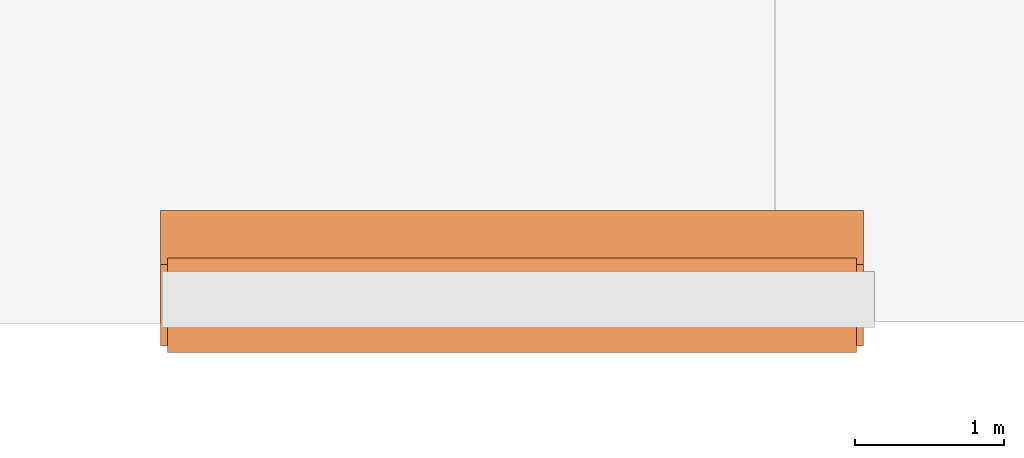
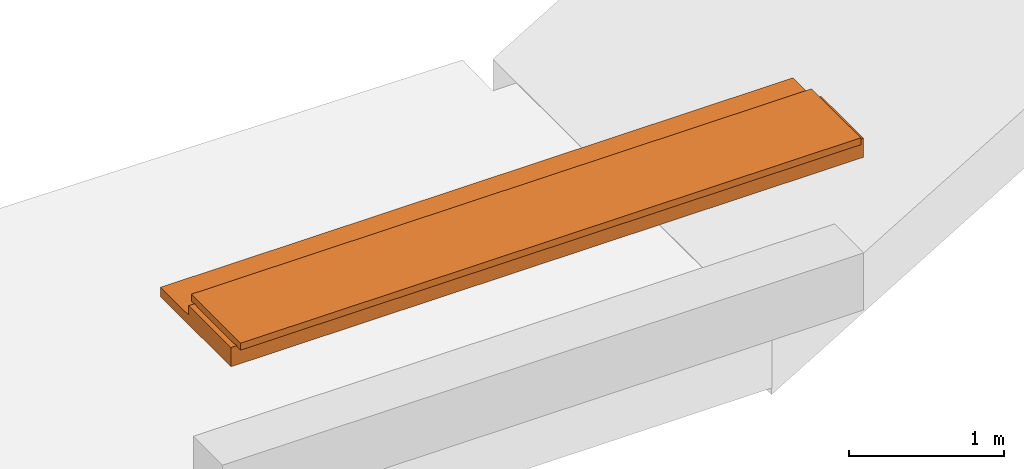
# One storey, part 3 of 4: 1 proxy.
"""IFC2X3 building model written with IfcOpenShell, lengths in metres."""

from ifc_helpers import new_model, entity, si_unit, converted_unit, derived_unit, direction, frame, origin, place, context, subcontext, project, spatial, faceted_brep, source, transform, mapped, material, type_object, type_shapes, element, save


model = new_model("IFC2X3")

# Units and contexts
model_context = context("Model", 3, precision=1e-05, world=origin(), true_north=direction((6.12303176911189e-17, 1.0)))
body_context = subcontext(model_context, "Body", "Model", "MODEL_VIEW")
ifc_project = project(units=[si_unit("LENGTHUNIT", "METRE"), si_unit("AREAUNIT", "SQUARE_METRE"), si_unit("VOLUMEUNIT", "CUBIC_METRE"), converted_unit("PLANEANGLEUNIT", "DEGREE", entity("IfcRatioMeasure", 0.0174532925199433), si_unit("PLANEANGLEUNIT", "RADIAN"), dimensions=[0, 0, 0, 0, 0, 0, 0]), si_unit("MASSUNIT", "GRAM", prefix="KILO"), derived_unit("MASSDENSITYUNIT", [(si_unit("MASSUNIT", "GRAM", prefix="KILO"), 1), (si_unit("LENGTHUNIT", "METRE"), -3)]), si_unit("TIMEUNIT", "SECOND"), si_unit("FREQUENCYUNIT", "HERTZ"), si_unit("THERMODYNAMICTEMPERATUREUNIT", "DEGREE_CELSIUS"), derived_unit("THERMALTRANSMITTANCEUNIT", [(si_unit("MASSUNIT", "GRAM", prefix="KILO"), 1), (si_unit("THERMODYNAMICTEMPERATUREUNIT", "KELVIN"), -1), (si_unit("TIMEUNIT", "SECOND"), -3)]), derived_unit("VOLUMETRICFLOWRATEUNIT", [(si_unit("LENGTHUNIT", "METRE"), 3), (si_unit("TIMEUNIT", "SECOND"), -1)]), si_unit("ELECTRICCURRENTUNIT", "AMPERE"), si_unit("ELECTRICVOLTAGEUNIT", "VOLT"), si_unit("POWERUNIT", "WATT"), si_unit("FORCEUNIT", "NEWTON", prefix="KILO"), si_unit("ILLUMINANCEUNIT", "LUX"), si_unit("LUMINOUSFLUXUNIT", "LUMEN"), si_unit("LUMINOUSINTENSITYUNIT", "CANDELA"), derived_unit("USERDEFINED", [(si_unit("MASSUNIT", "GRAM", prefix="KILO"), -1), (si_unit("LENGTHUNIT", "METRE"), -2), (si_unit("TIMEUNIT", "SECOND"), 3), (si_unit("LUMINOUSFLUXUNIT", "LUMEN"), 1)]), derived_unit("LINEARVELOCITYUNIT", [(si_unit("LENGTHUNIT", "METRE"), 1), (si_unit("TIMEUNIT", "SECOND"), -1)]), si_unit("PRESSUREUNIT", "PASCAL"), derived_unit("USERDEFINED", [(si_unit("LENGTHUNIT", "METRE"), -2), (si_unit("MASSUNIT", "GRAM", prefix="KILO"), 1), (si_unit("TIMEUNIT", "SECOND"), -2)])], contexts=[model_context])

# Site, building, storey
site_placement = place(None, origin())
site = spatial("IfcSite", under=ifc_project, at=site_placement, Name="Default", CompositionType="ELEMENT")
building_placement = place(site_placement, origin())
building = spatial("IfcBuilding", under=site, at=building_placement, CompositionType="ELEMENT")
storey_placement = place(building_placement, frame((0.0, 0.0, 23.3294157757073)))
storey = spatial("IfcBuildingStorey", under=building, at=storey_placement, Name="Livello 3", CompositionType="ELEMENT", Elevation=23.3294157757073)

# Proxy
ifc_material = material(Name="Piperno")
building_element_proxy_type = type_object("IfcBuildingElementProxyType", Name="Cimasa_balaustra terrazzo_1", PredefinedType="NOTDEFINED", material=ifc_material)
shared_shape = source(origin(), body_context, "Body", "Brep", [
    faceted_brep([(0.00313500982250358, 0.0468527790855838, 0.0930289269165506), (0.0015952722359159, 0.0453130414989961, 0.0758032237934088), (0.00159527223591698, 0.591965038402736, 0.0758032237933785), (0.00313500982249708, 0.590425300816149, 0.0930289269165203), (0.00892003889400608, 0.0526378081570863, 0.109327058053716), (0.00892003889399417, 0.584640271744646, 0.10932705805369), (0.018585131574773, 0.574975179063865, 0.123668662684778), (0.018585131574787, 0.0623029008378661, 0.123668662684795), (0.031520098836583, 0.0752378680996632, 0.13514830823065), (0.0315200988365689, 0.562040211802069, 0.135148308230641), (0.046908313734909, 0.0906260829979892, 0.143041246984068), (0.046908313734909, 0.546651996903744, 0.143041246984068), (0.0015952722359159, 0.0453130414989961, 0.151031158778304), (0.0015952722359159, 0.591965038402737, 0.151031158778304), (4.13649108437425, 0.588151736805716, 0.101062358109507), (4.72035518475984, 0.590425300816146, 0.0930289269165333), (4.71457015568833, 0.584640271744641, 0.109327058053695), (4.31528869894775, 0.558473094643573, 0.137430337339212), (4.09721508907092, 0.546651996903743, 0.143041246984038), (3.94825100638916, 0.558856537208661, 0.137199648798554), (4.30355019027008, 0.580465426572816, 0.11649596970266), (0.419940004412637, 0.580465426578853, 0.116495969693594), (0.586999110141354, 0.588151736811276, 0.101062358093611), (0.736527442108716, 0.577844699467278, 0.120163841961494), (4.70490506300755, 0.574975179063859, 0.123668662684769), (0.370436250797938, 0.591228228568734, 0.0886920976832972), (0.58096070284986, 0.591965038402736, 0.0758032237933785), (0.877656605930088, 0.591218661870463, 0.0887547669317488), (2.35910230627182, 0.546651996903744, 0.143041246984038), (2.22612102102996, 0.56684288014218, 0.13154616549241), (2.81592969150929, 0.564817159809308, 0.133145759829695), (1.78236589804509, 0.546651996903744, 0.143041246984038), (1.20564189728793, 0.546651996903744, 0.143041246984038), (1.34163546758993, 0.55777838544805, 0.137839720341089), (4.11719109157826, 0.569395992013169, 0.129344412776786), (3.99229364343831, 0.583111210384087, 0.112189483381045), (0.606299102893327, 0.569395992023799, 0.129344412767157), (4.69197009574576, 0.562040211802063, 0.135148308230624), (4.67658188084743, 0.546651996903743, 0.143041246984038), (3.67571950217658, 0.580779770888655, 0.116019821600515), (3.70742872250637, 0.588337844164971, 0.100523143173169), (3.57360554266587, 0.566013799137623, 0.132215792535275), (3.51784829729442, 0.546651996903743, 0.143041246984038), (3.20456979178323, 0.558839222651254, 0.137210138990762), (1.39344827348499, 0.586753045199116, 0.104723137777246), (1.61194396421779, 0.578518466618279, 0.119268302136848), (1.04777069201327, 0.580779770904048, 0.116019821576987), (3.34167004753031, 0.583348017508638, 0.111766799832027), (3.16616243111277, 0.576316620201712, 0.12208864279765), (0.408201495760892, 0.558473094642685, 0.137430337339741), (0.977780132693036, 0.557071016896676, 0.138245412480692), (0.626275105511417, 0.546651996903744, 0.143041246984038), (4.35305394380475, 0.591228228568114, 0.0886920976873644), (4.14252544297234, 0.591965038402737, 0.0758032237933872), (4.72189492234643, 0.591965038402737, 0.0758032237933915), (1.05082966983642, 0.568786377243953, 0.1298901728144), (0.957639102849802, 0.587444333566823, 0.102991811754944), (1.30442105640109, 0.590982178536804, 0.0901966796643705), (4.00925804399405, 0.591247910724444, 0.088561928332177), (3.21921874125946, 0.588708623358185, 0.0994028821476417), (2.96244951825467, 0.591965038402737, 0.0758032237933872), (3.26280274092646, 0.591965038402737, 0.0758032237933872), (1.67491531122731, 0.558254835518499, 0.137560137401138), (2.94326186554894, 0.584183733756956, 0.110216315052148), (2.93846909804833, 0.546651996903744, 0.143041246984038), (2.63277129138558, 0.578788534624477, 0.118900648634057), (3.68614269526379, 0.591349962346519, 0.0878578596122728), (2.66209629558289, 0.591965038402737, 0.0758032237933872), (2.66209795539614, 0.589939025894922, 0.0951004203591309), (2.3617430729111, 0.591965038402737, 0.0758032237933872), (2.33823765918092, 0.575533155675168, 0.123023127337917), (2.02343585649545, 0.577265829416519, 0.120909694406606), (2.28755506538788, 0.584417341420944, 0.109765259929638), (1.49401130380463, 0.567561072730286, 0.130948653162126), (1.86096686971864, 0.56808145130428, 0.130505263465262), (2.1775973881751, 0.590249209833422, 0.0938128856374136), (1.68513392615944, 0.590499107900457, 0.0926869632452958), (2.06138985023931, 0.591965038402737, 0.0758032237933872), (2.00920662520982, 0.557102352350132, 0.138227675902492), (2.62327619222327, 0.58552886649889, 0.107498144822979), (1.85563899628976, 0.585454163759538, 0.107657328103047), (1.46068340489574, 0.591965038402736, 0.0758032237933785), (1.76103662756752, 0.591965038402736, 0.0758032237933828), (1.16033018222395, 0.591965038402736, 0.0758032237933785), (3.56315596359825, 0.591965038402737, 0.0758032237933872), (4.72189492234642, 0.591965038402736, 0.151031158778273), (4.72189492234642, 0.045313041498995, 0.0758032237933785), (4.72035518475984, 0.0468527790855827, 0.0930289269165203), (4.71457015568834, 0.0526378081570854, 0.109327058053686), (4.70490506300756, 0.0623029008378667, 0.123668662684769), (4.69197009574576, 0.0752378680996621, 0.135148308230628), (4.67658188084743, 0.0906260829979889, 0.143041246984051), (4.72189492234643, 0.0453130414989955, 0.151031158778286), (0.586999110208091, 0.049126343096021, 0.10106235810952), (0.408201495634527, 0.0788049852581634, 0.137430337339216), (0.626275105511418, 0.0906260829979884, 0.143041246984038), (0.775239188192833, 0.0784215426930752, 0.137199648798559), (0.419940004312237, 0.0568126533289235, 0.116495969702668), (4.30355019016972, 0.0568126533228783, 0.116495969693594), (4.13649108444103, 0.0491263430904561, 0.101062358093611), (3.98696275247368, 0.0594333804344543, 0.120163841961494), (4.35305394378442, 0.0460498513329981, 0.0886920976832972), (4.14252618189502, 0.0453130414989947, 0.0758032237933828), (3.84583358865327, 0.0460594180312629, 0.0887547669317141), (2.36437548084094, 0.0906260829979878, 0.143041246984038), (2.49736917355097, 0.0704351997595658, 0.131546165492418), (1.9075605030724, 0.0724609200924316, 0.1331457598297), (2.9410994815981, 0.0906260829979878, 0.143041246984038), (3.51783588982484, 0.0906260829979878, 0.143041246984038), (3.38185472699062, 0.0794996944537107, 0.137839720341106), (0.606299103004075, 0.0678820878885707, 0.129344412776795), (0.731196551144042, 0.0541668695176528, 0.112189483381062), (4.11719109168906, 0.0678820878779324, 0.129344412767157), (1.04777069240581, 0.0564983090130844, 0.116019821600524), (1.01606147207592, 0.0489402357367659, 0.100523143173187), (1.14988465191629, 0.0712642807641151, 0.132215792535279), (1.20564189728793, 0.0906260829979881, 0.143041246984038), (1.51892040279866, 0.0784388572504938, 0.13721013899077), (3.33004192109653, 0.0505250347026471, 0.104723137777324), (3.11154623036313, 0.058759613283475, 0.119268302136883), (3.67571950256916, 0.0564983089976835, 0.116019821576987), (1.38182014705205, 0.0539300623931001, 0.111766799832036), (1.55732776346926, 0.0609614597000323, 0.122088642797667), (4.31528869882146, 0.078804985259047, 0.137430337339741), (3.74571006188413, 0.0802070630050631, 0.138245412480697), (4.09720268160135, 0.0906260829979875, 0.143041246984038), (0.370436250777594, 0.0460498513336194, 0.0886920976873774), (0.580964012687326, 0.0453130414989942, 0.0758032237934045), (3.67266052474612, 0.0684917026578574, 0.12989017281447), (3.76585109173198, 0.0498337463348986, 0.102991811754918), (3.41906913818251, 0.0462959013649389, 0.0901966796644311), (0.714232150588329, 0.0460301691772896, 0.0885619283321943), (1.50427145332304, 0.048569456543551, 0.099402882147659), (1.76103892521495, 0.0453130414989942, 0.0758032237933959), (1.4606878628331, 0.0453130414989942, 0.0758032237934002), (3.04857488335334, 0.0790232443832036, 0.137560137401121), (1.78022832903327, 0.0530943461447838, 0.110216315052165), (1.78500868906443, 0.0906260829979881, 0.143041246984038), (2.09071890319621, 0.0584895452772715, 0.118900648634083), (1.03734749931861, 0.0459281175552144, 0.0878578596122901), (2.0613899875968, 0.0453130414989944, 0.0758032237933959), (2.06139223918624, 0.047339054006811, 0.0951004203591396), (2.36174509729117, 0.0453130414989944, 0.0758032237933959), (2.38525253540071, 0.0617449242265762, 0.123023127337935), (2.70005433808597, 0.0600122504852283, 0.120909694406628), (2.43593512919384, 0.052860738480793, 0.109765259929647), (3.22947889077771, 0.0697170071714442, 0.130948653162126), (2.86252332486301, 0.0691966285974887, 0.130505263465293), (2.54589280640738, 0.0470288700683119, 0.0938128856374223), (3.03835626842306, 0.0467789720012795, 0.0926869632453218), (2.66210020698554, 0.0453130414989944, 0.0758032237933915), (2.71428356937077, 0.0801757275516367, 0.138227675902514), (2.10021400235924, 0.0517492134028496, 0.107498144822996), (2.86785119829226, 0.0518239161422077, 0.107657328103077), (3.26280233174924, 0.0453130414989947, 0.0758032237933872), (2.96245126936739, 0.0453130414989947, 0.0758032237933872), (3.56315744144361, 0.0453130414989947, 0.0758032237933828), (1.16033275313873, 0.0453130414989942, 0.0758032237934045)], [[[0, 1, 2, 3]], [[4, 0, 3, 5]], [[5, 6, 7, 4]], [[8, 7, 6, 9]], [[10, 8, 9, 11]], [[12, 10, 11, 13]], [[1, 12, 13, 2]], [[14, 15, 16]], [[17, 18, 19]], [[16, 20, 14]], [[21, 22, 23]], [[24, 20, 16]], [[5, 3, 22]], [[25, 26, 27]], [[22, 21, 5]], [[28, 29, 30]], [[31, 32, 33]], [[34, 35, 20]], [[36, 9, 6]], [[17, 37, 38]], [[39, 40, 35]], [[41, 42, 43]], [[41, 39, 34]], [[44, 45, 46]], [[24, 37, 34]], [[47, 39, 48]], [[18, 42, 19]], [[49, 36, 50]], [[49, 51, 11]], [[18, 17, 38]], [[21, 6, 5]], [[25, 3, 2]], [[52, 53, 54]], [[26, 25, 2]], [[34, 37, 17]], [[36, 49, 9]], [[55, 33, 50]], [[44, 56, 57]], [[22, 3, 25]], [[14, 52, 15]], [[58, 52, 14]], [[21, 36, 6]], [[36, 21, 23]], [[14, 20, 35]], [[20, 24, 34]], [[39, 41, 48]], [[43, 30, 48]], [[59, 60, 61]], [[33, 62, 31]], [[63, 47, 48]], [[28, 30, 64]], [[65, 48, 30]], [[40, 58, 14]], [[59, 61, 66]], [[67, 60, 68, 69]], [[30, 70, 65]], [[64, 30, 43]], [[70, 71, 72]], [[73, 74, 62]], [[75, 68, 72]], [[75, 76, 77]], [[45, 74, 73]], [[74, 29, 78]], [[71, 70, 29]], [[75, 69, 68]], [[63, 79, 68]], [[57, 76, 44]], [[80, 75, 72]], [[77, 76, 81, 82]], [[71, 80, 72]], [[63, 65, 79]], [[80, 71, 45]], [[71, 29, 74]], [[80, 45, 44]], [[45, 73, 46]], [[80, 44, 76]], [[57, 56, 27]], [[80, 76, 75]], [[57, 81, 76]], [[64, 43, 42]], [[83, 57, 27]], [[83, 27, 26]], [[56, 22, 27]], [[71, 74, 45]], [[31, 62, 78]], [[78, 28, 31]], [[78, 29, 28]], [[78, 62, 74]], [[33, 73, 62]], [[73, 33, 55]], [[33, 32, 50]], [[55, 46, 73]], [[46, 55, 23]], [[55, 50, 36]], [[50, 32, 51]], [[22, 56, 23]], [[46, 56, 44]], [[57, 83, 81]], [[41, 43, 48]], [[34, 17, 19]], [[19, 41, 34]], [[41, 19, 42]], [[9, 49, 11]], [[51, 49, 50]], [[22, 25, 27]], [[15, 52, 54]], [[53, 52, 58]], [[53, 66, 61, 84]], [[66, 40, 59]], [[58, 40, 66]], [[59, 40, 47]], [[36, 23, 55]], [[56, 46, 23]], [[14, 35, 40]], [[39, 35, 34]], [[39, 47, 40]], [[59, 47, 63]], [[59, 63, 68]], [[65, 63, 48]], [[79, 72, 68]], [[79, 65, 72]], [[68, 60, 59]], [[77, 69, 75]], [[29, 70, 30]], [[65, 70, 72]], [[58, 66, 53]], [[13, 11, 51, 32, 31, 28, 64, 42, 18, 38, 85]], [[13, 85, 54, 53, 84, 61, 60, 67, 69, 77, 82, 81, 83, 26, 2]], [[15, 54, 86, 87]], [[16, 15, 87, 88]], [[88, 89, 24, 16]], [[37, 24, 89, 90]], [[38, 37, 90, 91]], [[85, 38, 91, 92]], [[54, 85, 92, 86]], [[93, 0, 4]], [[94, 95, 96]], [[4, 97, 93]], [[98, 99, 100]], [[7, 97, 4]], [[88, 87, 99]], [[101, 102, 103]], [[99, 98, 88]], [[104, 105, 106]], [[107, 108, 109]], [[110, 111, 97]], [[112, 90, 89]], [[94, 8, 10]], [[113, 114, 111]], [[115, 116, 117]], [[115, 113, 110]], [[118, 119, 120]], [[7, 8, 110]], [[121, 113, 122]], [[95, 116, 96]], [[123, 112, 124]], [[123, 125, 91]], [[95, 94, 10]], [[98, 89, 88]], [[101, 87, 86]], [[126, 127, 1]], [[110, 8, 94]], [[112, 123, 90]], [[128, 109, 124]], [[118, 129, 130]], [[99, 87, 101]], [[93, 126, 0]], [[131, 126, 93]], [[98, 112, 89]], [[112, 98, 100]], [[93, 97, 111]], [[97, 7, 110]], [[113, 115, 122]], [[117, 106, 122]], [[132, 133, 134]], [[109, 135, 107]], [[136, 121, 122]], [[104, 106, 137]], [[138, 122, 106]], [[114, 131, 93]], [[132, 134, 139]], [[140, 133, 141, 142]], [[106, 143, 138]], [[137, 106, 117]], [[143, 144, 145]], [[146, 147, 135]], [[148, 141, 145]], [[148, 149, 150]], [[119, 147, 146]], [[147, 105, 151]], [[144, 143, 105]], [[148, 142, 141]], [[136, 152, 141]], [[130, 149, 118]], [[153, 148, 145]], [[150, 149, 154, 155]], [[144, 153, 145]], [[136, 138, 152]], [[153, 144, 119]], [[144, 105, 147]], [[153, 119, 118]], [[119, 146, 120]], [[153, 118, 149]], [[130, 129, 103]], [[153, 149, 148]], [[130, 154, 149]], [[137, 117, 116]], [[156, 130, 103]], [[156, 103, 102]], [[129, 99, 103]], [[144, 147, 119]], [[107, 135, 151]], [[151, 104, 107]], [[151, 105, 104]], [[151, 135, 147]], [[109, 146, 135]], [[146, 109, 128]], [[109, 108, 124]], [[128, 120, 146]], [[120, 128, 100]], [[128, 124, 112]], [[124, 108, 125]], [[99, 129, 100]], [[120, 129, 118]], [[130, 156, 154]], [[115, 117, 122]], [[110, 94, 96]], [[96, 115, 110]], [[115, 96, 116]], [[90, 123, 91]], [[125, 123, 124]], [[99, 101, 103]], [[102, 101, 86]], [[0, 126, 1]], [[127, 126, 131]], [[127, 139, 134, 157]], [[139, 114, 132]], [[131, 114, 139]], [[132, 114, 121]], [[112, 100, 128]], [[129, 120, 100]], [[93, 111, 114]], [[113, 111, 110]], [[113, 121, 114]], [[132, 121, 136]], [[132, 136, 141]], [[138, 136, 122]], [[152, 145, 141]], [[152, 138, 145]], [[141, 133, 132]], [[150, 142, 148]], [[105, 143, 106]], [[138, 143, 145]], [[131, 139, 127]], [[92, 91, 125, 108, 107, 104, 137, 116, 95, 10, 12]], [[86, 92, 12, 1, 127, 157, 134, 133, 140, 142, 150, 155, 154, 156, 102]]]),
    faceted_brep([(4.72189492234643, 0.0453130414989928, 0.0), (4.72189492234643, 0.955577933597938, 0.0), (4.72189492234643, 0.955577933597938, 0.0758032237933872), (4.72189492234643, 0.0453130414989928, 0.0758032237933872), (0.00159527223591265, 0.0453130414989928, 0.0), (0.00159527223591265, 0.0453130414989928, 0.0758032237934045), (0.00159527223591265, 0.955577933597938, 0.0758032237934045), (0.00159527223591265, 0.955577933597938, 0.0)], [[[0, 1, 2, 3]], [[4, 5, 6, 7]], [[0, 3, 5, 4]], [[3, 2, 6, 5]], [[2, 1, 7, 6]], [[1, 0, 4, 7]]]),
    faceted_brep([(0.0469083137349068, 0.637278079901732, 0.197771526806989), (0.0469083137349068, 0.637278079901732, 0.143041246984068), (0.0469083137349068, 0.0, 0.143041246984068), (0.0469083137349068, 0.0, 0.197771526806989), (4.67658188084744, 0.637278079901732, 0.197771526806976), (4.67658188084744, 0.0, 0.197771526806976), (4.67658188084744, 0.0, 0.143041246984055), (4.67658188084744, 0.637278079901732, 0.143041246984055)], [[[0, 1, 2, 3]], [[4, 5, 6, 7]], [[0, 3, 5, 4]], [[3, 2, 6, 5]], [[2, 1, 7, 6]], [[1, 0, 4, 7]]]),
])
type_shapes(building_element_proxy_type, [shared_shape])
proxy_placement = place(storey_placement, frame((-9.53664354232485, 1.25559331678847, 1.26366956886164)))
element("IfcBuildingElementProxy", 1, at=proxy_placement, inside=storey, type_object=building_element_proxy_type, material=ifc_material, Name="Cimasa_balaustra terrazzo_1:Cimasa_balaustra terrazzo_1", ObjectType="Cimasa_balaustra terrazzo_1", context=body_context, shape_type="MappedRepresentation", body=[
    mapped(shared_shape, transform((0.0, 0.0, 0.0), scale=1.0)),
])

save(model, "model.ifc")
